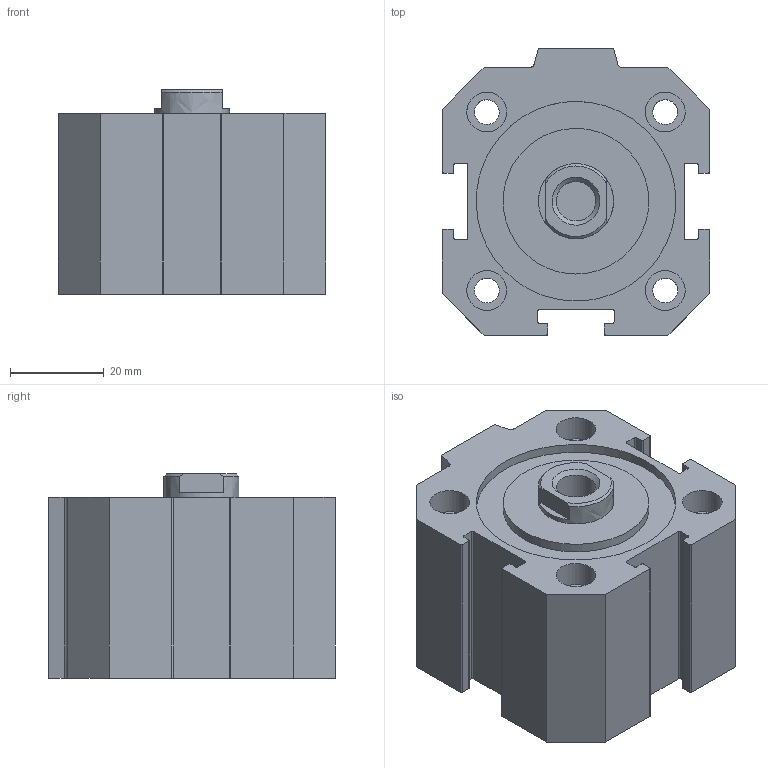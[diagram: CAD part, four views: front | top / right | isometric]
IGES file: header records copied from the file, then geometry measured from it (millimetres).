
Global section: file name: 1512_40_0005; native system: Autodesk Inventor 2014; preprocessor: unknown; author: A. Manieri; date: 20160907.120729; units: millimetre
Bounding box: 57 x 61 x 43.5 mm (x, y, z)
Volume: 98663.7 mm3; surface area: 31234.7 mm2
Topology: 2 solids, 2 shells, 116 faces, 296 edges, 202 vertices
Faces by surface type: bspline 116
